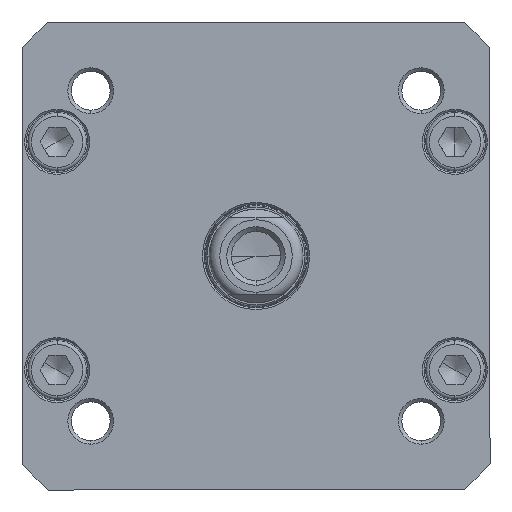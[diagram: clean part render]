
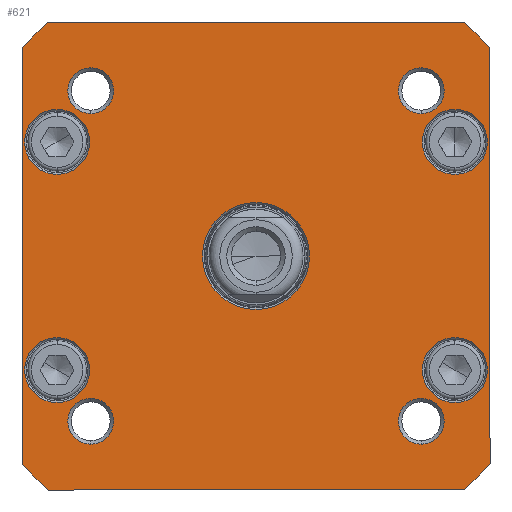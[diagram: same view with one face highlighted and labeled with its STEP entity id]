
A CAD part, front view. The second image highlights one B-rep face of the part: STEP entity #621.
In plain terms, the highlighted planar face has unit normal (0, -1, 0).
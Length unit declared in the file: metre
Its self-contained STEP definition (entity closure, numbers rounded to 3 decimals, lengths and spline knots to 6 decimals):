
#621=ADVANCED_FACE('',(#1164,#1165,#1166,#1167,#1168,#1169,#1170,#1171,#1172,#1173),#1174,.T.);
#1164=FACE_OUTER_BOUND('',#1903,.T.);
#1165=FACE_BOUND('',#1904,.T.);
#1166=FACE_BOUND('',#1905,.T.);
#1167=FACE_BOUND('',#1906,.T.);
#1168=FACE_BOUND('',#1907,.T.);
#1169=FACE_BOUND('',#1908,.T.);
#1170=FACE_BOUND('',#1909,.T.);
#1171=FACE_BOUND('',#1910,.T.);
#1172=FACE_BOUND('',#1911,.T.);
#1173=FACE_BOUND('',#1912,.T.);
#1174=PLANE('',#1913);
#1903=EDGE_LOOP('',(#3745,#3746,#3747,#3748,#3749,#3750,#3751,#3752));
#1904=EDGE_LOOP('',(#3753,#3754));
#1905=EDGE_LOOP('',(#3755,#3756));
#1906=EDGE_LOOP('',(#3757,#3758));
#1907=EDGE_LOOP('',(#3759,#3760));
#1908=EDGE_LOOP('',(#3761,#3762));
#1909=EDGE_LOOP('',(#3763,#3764));
#1910=EDGE_LOOP('',(#3765,#3766));
#1911=EDGE_LOOP('',(#3767,#3768));
#1912=EDGE_LOOP('',(#3769,#3770));
#1913=AXIS2_PLACEMENT_3D('',#3771,#3772,#3773);
#3745=ORIENTED_EDGE('',*,*,#5370,.F.);
#3746=ORIENTED_EDGE('',*,*,#5371,.F.);
#3747=ORIENTED_EDGE('',*,*,#5372,.F.);
#3748=ORIENTED_EDGE('',*,*,#5373,.F.);
#3749=ORIENTED_EDGE('',*,*,#5374,.F.);
#3750=ORIENTED_EDGE('',*,*,#5375,.F.);
#3751=ORIENTED_EDGE('',*,*,#5376,.F.);
#3752=ORIENTED_EDGE('',*,*,#5377,.F.);
#3753=ORIENTED_EDGE('',*,*,#5378,.F.);
#3754=ORIENTED_EDGE('',*,*,#5262,.F.);
#3755=ORIENTED_EDGE('',*,*,#5379,.F.);
#3756=ORIENTED_EDGE('',*,*,#5246,.F.);
#3757=ORIENTED_EDGE('',*,*,#5380,.F.);
#3758=ORIENTED_EDGE('',*,*,#5230,.F.);
#3759=ORIENTED_EDGE('',*,*,#5381,.F.);
#3760=ORIENTED_EDGE('',*,*,#5206,.F.);
#3761=ORIENTED_EDGE('',*,*,#5382,.F.);
#3762=ORIENTED_EDGE('',*,*,#5183,.F.);
#3763=ORIENTED_EDGE('',*,*,#5383,.F.);
#3764=ORIENTED_EDGE('',*,*,#5186,.F.);
#3765=ORIENTED_EDGE('',*,*,#5384,.F.);
#3766=ORIENTED_EDGE('',*,*,#5210,.F.);
#3767=ORIENTED_EDGE('',*,*,#5385,.F.);
#3768=ORIENTED_EDGE('',*,*,#5238,.F.);
#3769=ORIENTED_EDGE('',*,*,#5386,.F.);
#3770=ORIENTED_EDGE('',*,*,#5254,.F.);
#3771=CARTESIAN_POINT('',(0.,-0.09175,0.));
#3772=DIRECTION('',(0.0,-1.0,0.0));
#3773=DIRECTION('',(0.0,0.0,-1.0));
#5183=EDGE_CURVE('',#6485,#6487,#6488,.T.);
#5186=EDGE_CURVE('',#6490,#6493,#6494,.T.);
#5206=EDGE_CURVE('',#6524,#6526,#6527,.T.);
#5210=EDGE_CURVE('',#6530,#6533,#6534,.T.);
#5230=EDGE_CURVE('',#6564,#6566,#6567,.T.);
#5238=EDGE_CURVE('',#6578,#6580,#6581,.T.);
#5246=EDGE_CURVE('',#6592,#6594,#6595,.T.);
#5254=EDGE_CURVE('',#6606,#6608,#6609,.T.);
#5262=EDGE_CURVE('',#6620,#6622,#6623,.T.);
#5370=EDGE_CURVE('',#6823,#6824,#6825,.T.);
#5371=EDGE_CURVE('',#6826,#6823,#6827,.T.);
#5372=EDGE_CURVE('',#6828,#6826,#6829,.T.);
#5373=EDGE_CURVE('',#6830,#6828,#6831,.T.);
#5374=EDGE_CURVE('',#6832,#6830,#6833,.T.);
#5375=EDGE_CURVE('',#6834,#6832,#6835,.T.);
#5376=EDGE_CURVE('',#6836,#6834,#6837,.T.);
#5377=EDGE_CURVE('',#6824,#6836,#6838,.T.);
#5378=EDGE_CURVE('',#6622,#6620,#6839,.T.);
#5379=EDGE_CURVE('',#6594,#6592,#6840,.T.);
#5380=EDGE_CURVE('',#6566,#6564,#6841,.T.);
#5381=EDGE_CURVE('',#6526,#6524,#6842,.T.);
#5382=EDGE_CURVE('',#6487,#6485,#6843,.T.);
#5383=EDGE_CURVE('',#6493,#6490,#6844,.T.);
#5384=EDGE_CURVE('',#6533,#6530,#6845,.T.);
#5385=EDGE_CURVE('',#6580,#6578,#6846,.T.);
#5386=EDGE_CURVE('',#6608,#6606,#6847,.T.);
#6485=VERTEX_POINT('',#8572);
#6487=VERTEX_POINT('',#8575);
#6488=CIRCLE('',#8576,0.00915);
#6490=VERTEX_POINT('',#8579);
#6493=VERTEX_POINT('',#8583);
#6494=CIRCLE('',#8584,0.003924);
#6524=VERTEX_POINT('',#8623);
#6526=VERTEX_POINT('',#8626);
#6527=CIRCLE('',#8627,0.003924);
#6530=VERTEX_POINT('',#8631);
#6533=VERTEX_POINT('',#8635);
#6534=CIRCLE('',#8636,0.003924);
#6564=VERTEX_POINT('',#8675);
#6566=VERTEX_POINT('',#8678);
#6567=CIRCLE('',#8679,0.003924);
#6578=VERTEX_POINT('',#8693);
#6580=VERTEX_POINT('',#8696);
#6581=CIRCLE('',#8697,0.00555);
#6592=VERTEX_POINT('',#8711);
#6594=VERTEX_POINT('',#8714);
#6595=CIRCLE('',#8715,0.00555);
#6606=VERTEX_POINT('',#8729);
#6608=VERTEX_POINT('',#8732);
#6609=CIRCLE('',#8733,0.00555);
#6620=VERTEX_POINT('',#8747);
#6622=VERTEX_POINT('',#8750);
#6623=CIRCLE('',#8751,0.00555);
#6823=VERTEX_POINT('',#9264);
#6824=VERTEX_POINT('',#9265);
#6825=CIRCLE('',#9266,0.0535);
#6826=VERTEX_POINT('',#9267);
#6827=LINE('',#9268,#9269);
#6828=VERTEX_POINT('',#9270);
#6829=CIRCLE('',#9271,0.0535);
#6830=VERTEX_POINT('',#9272);
#6831=LINE('',#9273,#9274);
#6832=VERTEX_POINT('',#9275);
#6833=CIRCLE('',#9276,0.0535);
#6834=VERTEX_POINT('',#9277);
#6835=LINE('',#9278,#9279);
#6836=VERTEX_POINT('',#9280);
#6837=CIRCLE('',#9281,0.0535);
#6838=LINE('',#9282,#9283);
#6839=CIRCLE('',#9284,0.00555);
#6840=CIRCLE('',#9285,0.00555);
#6841=CIRCLE('',#9286,0.003924);
#6842=CIRCLE('',#9287,0.003924);
#6843=CIRCLE('',#9288,0.00915);
#6844=CIRCLE('',#9289,0.003924);
#6845=CIRCLE('',#9290,0.003924);
#6846=CIRCLE('',#9291,0.00555);
#6847=CIRCLE('',#9292,0.00555);
#8572=CARTESIAN_POINT('',(0.,-0.09175,-0.00915));
#8575=CARTESIAN_POINT('',(0.,-0.09175,0.00915));
#8576=AXIS2_PLACEMENT_3D('',#10569,#10570,#10571);
#8579=CARTESIAN_POINT('',(0.02825,-0.09175,0.032174));
#8583=CARTESIAN_POINT('',(0.02825,-0.09175,0.024327));
#8584=AXIS2_PLACEMENT_3D('',#10574,#10575,#10576);
#8623=CARTESIAN_POINT('',(0.02825,-0.09175,-0.024327));
#8626=CARTESIAN_POINT('',(0.02825,-0.09175,-0.032174));
#8627=AXIS2_PLACEMENT_3D('',#10614,#10615,#10616);
#8631=CARTESIAN_POINT('',(-0.02825,-0.09175,-0.024327));
#8635=CARTESIAN_POINT('',(-0.02825,-0.09175,-0.032174));
#8636=AXIS2_PLACEMENT_3D('',#10622,#10623,#10624);
#8675=CARTESIAN_POINT('',(-0.02825,-0.09175,0.032174));
#8678=CARTESIAN_POINT('',(-0.02825,-0.09175,0.024327));
#8679=AXIS2_PLACEMENT_3D('',#10662,#10663,#10664);
#8693=CARTESIAN_POINT('',(0.034,-0.09175,0.02505));
#8696=CARTESIAN_POINT('',(0.034,-0.09175,0.01395));
#8697=AXIS2_PLACEMENT_3D('',#10678,#10679,#10680);
#8711=CARTESIAN_POINT('',(0.034,-0.09175,-0.01395));
#8714=CARTESIAN_POINT('',(0.034,-0.09175,-0.02505));
#8715=AXIS2_PLACEMENT_3D('',#10694,#10695,#10696);
#8729=CARTESIAN_POINT('',(-0.034,-0.09175,-0.01395));
#8732=CARTESIAN_POINT('',(-0.034,-0.09175,-0.02505));
#8733=AXIS2_PLACEMENT_3D('',#10710,#10711,#10712);
#8747=CARTESIAN_POINT('',(-0.034,-0.09175,0.02505));
#8750=CARTESIAN_POINT('',(-0.034,-0.09175,0.01395));
#8751=AXIS2_PLACEMENT_3D('',#10726,#10727,#10728);
#9264=CARTESIAN_POINT('',(-0.04,-0.09175,0.035528));
#9265=CARTESIAN_POINT('',(-0.035528,-0.09175,0.04));
#9266=AXIS2_PLACEMENT_3D('',#10892,#10893,#10894);
#9267=CARTESIAN_POINT('',(-0.04,-0.09175,-0.035528));
#9268=CARTESIAN_POINT('',(-0.04,-0.09175,-0.035528));
#9269=VECTOR('',#10895,0.071056);
#9270=CARTESIAN_POINT('',(-0.035528,-0.09175,-0.04));
#9271=AXIS2_PLACEMENT_3D('',#10896,#10897,#10898);
#9272=CARTESIAN_POINT('',(0.035528,-0.09175,-0.04));
#9273=CARTESIAN_POINT('',(0.035528,-0.09175,-0.04));
#9274=VECTOR('',#10899,0.071056);
#9275=CARTESIAN_POINT('',(0.04,-0.09175,-0.035528));
#9276=AXIS2_PLACEMENT_3D('',#10900,#10901,#10902);
#9277=CARTESIAN_POINT('',(0.04,-0.09175,0.035528));
#9278=CARTESIAN_POINT('',(0.04,-0.09175,0.035528));
#9279=VECTOR('',#10903,0.071056);
#9280=CARTESIAN_POINT('',(0.035528,-0.09175,0.04));
#9281=AXIS2_PLACEMENT_3D('',#10904,#10905,#10906);
#9282=CARTESIAN_POINT('',(-0.035528,-0.09175,0.04));
#9283=VECTOR('',#10907,0.071056);
#9284=AXIS2_PLACEMENT_3D('',#10908,#10909,#10910);
#9285=AXIS2_PLACEMENT_3D('',#10911,#10912,#10913);
#9286=AXIS2_PLACEMENT_3D('',#10914,#10915,#10916);
#9287=AXIS2_PLACEMENT_3D('',#10917,#10918,#10919);
#9288=AXIS2_PLACEMENT_3D('',#10920,#10921,#10922);
#9289=AXIS2_PLACEMENT_3D('',#10923,#10924,#10925);
#9290=AXIS2_PLACEMENT_3D('',#10926,#10927,#10928);
#9291=AXIS2_PLACEMENT_3D('',#10929,#10930,#10931);
#9292=AXIS2_PLACEMENT_3D('',#10932,#10933,#10934);
#10569=CARTESIAN_POINT('',(0.0,-0.09175,0.0));
#10570=DIRECTION('',(0.0,-1.0,0.0));
#10571=DIRECTION('',(0.0,0.0,-1.0));
#10574=CARTESIAN_POINT('',(0.02825,-0.09175,0.02825));
#10575=DIRECTION('',(0.0,-1.0,0.0));
#10576=DIRECTION('',(0.0,0.0,1.0));
#10614=CARTESIAN_POINT('',(0.02825,-0.09175,-0.02825));
#10615=DIRECTION('',(0.0,-1.0,0.0));
#10616=DIRECTION('',(0.0,0.0,1.0));
#10622=CARTESIAN_POINT('',(-0.02825,-0.09175,-0.02825));
#10623=DIRECTION('',(0.0,-1.0,0.0));
#10624=DIRECTION('',(0.0,0.0,1.0));
#10662=CARTESIAN_POINT('',(-0.02825,-0.09175,0.02825));
#10663=DIRECTION('',(0.0,-1.0,0.0));
#10664=DIRECTION('',(0.0,0.0,1.0));
#10678=CARTESIAN_POINT('',(0.034,-0.09175,0.0195));
#10679=DIRECTION('',(0.0,-1.0,0.0));
#10680=DIRECTION('',(0.0,0.0,1.0));
#10694=CARTESIAN_POINT('',(0.034,-0.09175,-0.0195));
#10695=DIRECTION('',(0.0,-1.0,0.0));
#10696=DIRECTION('',(0.0,0.0,1.0));
#10710=CARTESIAN_POINT('',(-0.034,-0.09175,-0.0195));
#10711=DIRECTION('',(0.0,-1.0,0.0));
#10712=DIRECTION('',(0.0,0.0,1.0));
#10726=CARTESIAN_POINT('',(-0.034,-0.09175,0.0195));
#10727=DIRECTION('',(0.0,-1.0,0.0));
#10728=DIRECTION('',(0.0,0.0,1.0));
#10892=CARTESIAN_POINT('',(0.0,-0.09175,0.0));
#10893=DIRECTION('',(0.0,1.0,0.0));
#10894=DIRECTION('',(-0.664,0.0,0.748));
#10895=DIRECTION('',(0.0,0.0,1.0));
#10896=CARTESIAN_POINT('',(0.0,-0.09175,0.0));
#10897=DIRECTION('',(0.0,1.0,0.0));
#10898=DIRECTION('',(-0.748,0.0,-0.664));
#10899=DIRECTION('',(-1.0,0.0,0.0));
#10900=CARTESIAN_POINT('',(0.0,-0.09175,0.0));
#10901=DIRECTION('',(0.0,1.0,0.0));
#10902=DIRECTION('',(0.664,0.0,-0.748));
#10903=DIRECTION('',(0.0,0.0,-1.0));
#10904=CARTESIAN_POINT('',(0.0,-0.09175,0.0));
#10905=DIRECTION('',(-0.0,1.0,0.0));
#10906=DIRECTION('',(0.748,0.0,0.664));
#10907=DIRECTION('',(1.0,0.0,0.0));
#10908=CARTESIAN_POINT('',(-0.034,-0.09175,0.0195));
#10909=DIRECTION('',(0.0,-1.0,0.0));
#10910=DIRECTION('',(0.0,0.0,1.0));
#10911=CARTESIAN_POINT('',(0.034,-0.09175,-0.0195));
#10912=DIRECTION('',(0.0,-1.0,0.0));
#10913=DIRECTION('',(0.0,0.0,1.0));
#10914=CARTESIAN_POINT('',(-0.02825,-0.09175,0.02825));
#10915=DIRECTION('',(0.0,-1.0,0.0));
#10916=DIRECTION('',(0.0,0.0,1.0));
#10917=CARTESIAN_POINT('',(0.02825,-0.09175,-0.02825));
#10918=DIRECTION('',(0.0,-1.0,0.0));
#10919=DIRECTION('',(0.0,0.0,1.0));
#10920=CARTESIAN_POINT('',(0.0,-0.09175,0.0));
#10921=DIRECTION('',(0.0,-1.0,0.0));
#10922=DIRECTION('',(0.0,0.0,-1.0));
#10923=CARTESIAN_POINT('',(0.02825,-0.09175,0.02825));
#10924=DIRECTION('',(0.0,-1.0,0.0));
#10925=DIRECTION('',(0.0,0.0,1.0));
#10926=CARTESIAN_POINT('',(-0.02825,-0.09175,-0.02825));
#10927=DIRECTION('',(0.0,-1.0,0.0));
#10928=DIRECTION('',(0.0,0.0,1.0));
#10929=CARTESIAN_POINT('',(0.034,-0.09175,0.0195));
#10930=DIRECTION('',(0.0,-1.0,0.0));
#10931=DIRECTION('',(0.0,0.0,1.0));
#10932=CARTESIAN_POINT('',(-0.034,-0.09175,-0.0195));
#10933=DIRECTION('',(0.0,-1.0,0.0));
#10934=DIRECTION('',(0.0,0.0,1.0));
